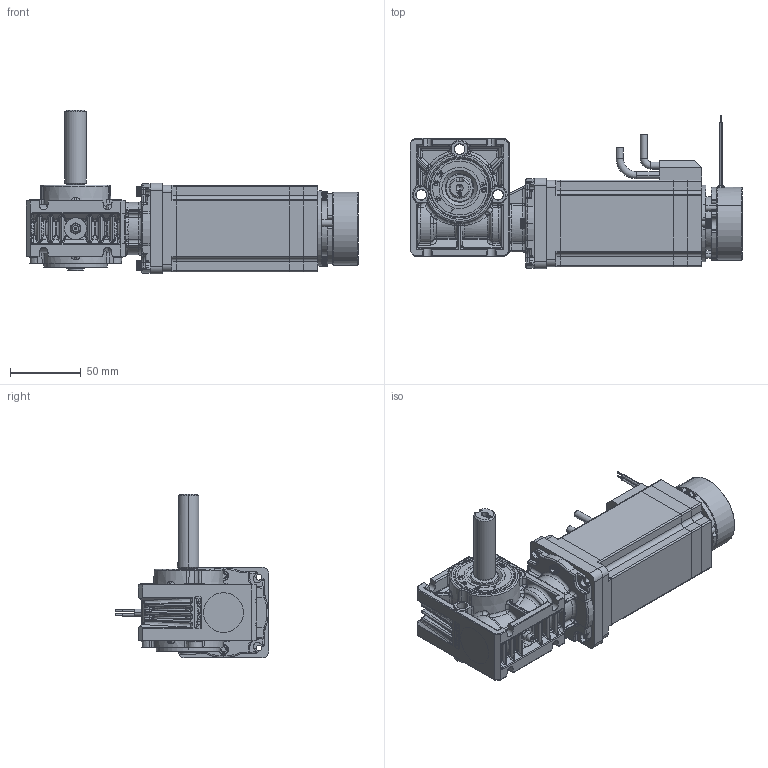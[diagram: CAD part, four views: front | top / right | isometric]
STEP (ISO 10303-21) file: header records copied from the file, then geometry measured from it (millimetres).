
FILE_DESCRIPTION (( 'STEP AP214' ), '1' );
FILE_NAME ('PBL60-70-GB28 - Brake - Shaft.STEP', '2024-11-26T15:26:04', ( '' ), ( '' ), 'SwSTEP 2.0', 'SolidWorks 2023', '' );
FILE_SCHEMA (( 'AUTOMOTIVE_DESIGN' ));
Length unit declared in the file: millimetre
Products named in the file (1): PBL60-70-GB28 - Brake - Shaft
Bounding box: 234.24 x 108.5 x 115.67 mm (x, y, z)
Volume: 668118 mm3; surface area: 170219 mm2
Topology: 29 solids, 29 shells, 4746 faces, 12342 edges, 7762 vertices
Faces by surface type: cylinder 1930, plane 1378, bspline 980, torus 177, cone 161, sphere 120
Entity records: 253695 total; most frequent: CARTESIAN_POINT 92714, ORIENTED_EDGE 24414, DIRECTION 20292, EDGE_CURVE 12207, VERTEX_POINT 7753, AXIS2_PLACEMENT_3D 7456, VECTOR 5380, LINE 5380
